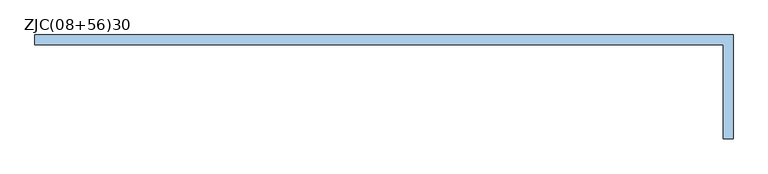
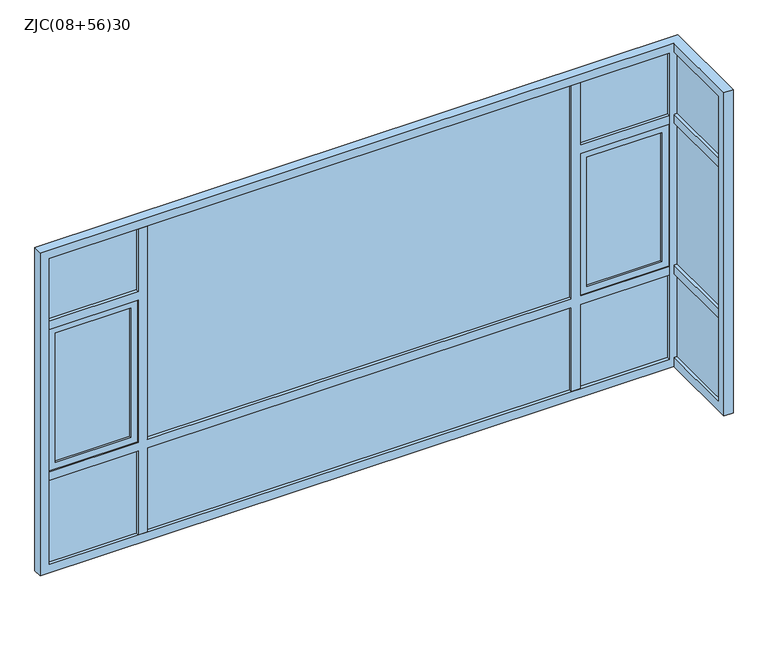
"""IFC4 building model written with IfcOpenShell, lengths in millimetres: window geometry, 转角窗 安荣伟 : ZJC(08+56)30."""

from ifc_helpers import new_model, si_unit, frame, origin, place, context, project, spatial, polyline, outline, extrude, faceted_brep, source, transform, mapped, element, save


def zjc_08_56_30_6e2e087f(model_context):
    return source(origin(), model_context, "Body", "SolidModel", [
        extrude(outline(polyline([(2260.0, -4740.0), (2260.0, -5520.0), (940.0, -5520.0), (940.0, -4740.0), (2260.0, -4740.0)]), holes=[polyline([(2200.0, -4800.0), (1000.0, -4800.0), (1000.0, -5460.0), (2200.0, -5460.0), (2200.0, -4800.0)])]), frame((0.0, -30.0, 0.0), z_axis=(0.0, 1.0, 0.0), x_axis=(0.0, 0.0, 1.0)), (0.0, 0.0, 1.0), 60.0),
        extrude(outline(polyline([(2260.0, -80.0), (2260.0, -860.0), (940.0, -860.0), (940.0, -80.0), (2260.0, -80.0)]), holes=[polyline([(2200.0, -140.0), (1000.0, -140.0), (1000.0, -800.0), (2200.0, -800.0), (2200.0, -140.0)])]), frame((0.0, -30.0, 0.0), z_axis=(0.0, 1.0, 0.0), x_axis=(0.0, 0.0, 1.0)), (0.0, 0.0, 1.0), 60.0),
        faceted_brep([(-5600.0, 40.0, 3000.0), (40.0, 40.0, 3000.0), (40.0, 40.0, 0.0), (-5600.0, 40.0, 0.0), (-80.0, 40.0, 2920.0), (-5520.0, 40.0, 2920.0), (-5520.0, 40.0, 80.0), (-80.0, 40.0, 80.0), (-5600.0, -40.0, 0.0), (-40.0, -40.0, 0.0), (-40.0, -40.0, 80.0), (40.0, -40.0, 80.0), (40.0, -40.0, 2920.0), (-40.0, -40.0, 2920.0), (-40.0, -40.0, 3000.0), (-5600.0, -40.0, 3000.0), (-80.0, -40.0, 2920.0), (-80.0, -40.0, 80.0), (-5520.0, -40.0, 80.0), (-5520.0, -40.0, 2920.0), (-40.0, -800.0, 3000.0), (40.0, -800.0, 3000.0), (40.0, -800.0, 0.0), (-40.0, -800.0, 0.0), (40.0, -720.0, 2920.0), (40.0, -720.0, 80.0), (-40.0, -720.0, 2920.0), (-40.0, -720.0, 80.0)], [[[0, 1, 2, 3], [4, 5, 6, 7]], [[8, 9, 10, 11, 12, 13, 14, 15], [16, 17, 18, 19]], [[15, 14, 20, 21, 1, 0]], [[3, 8, 15, 0]], [[2, 22, 23, 9, 8, 3]], [[7, 17, 16, 4]], [[6, 18, 17, 7]], [[5, 19, 18, 6]], [[4, 16, 19, 5]], [[21, 22, 2, 1], [24, 12, 11, 25]], [[20, 14, 13, 26, 27, 10, 9, 23]], [[21, 20, 23, 22]], [[25, 27, 26, 24]], [[10, 27, 25, 11]], [[24, 26, 13, 12]]]),
        extrude(outline(polyline([(80.0, -4660.0), (860.0, -4660.0), (860.0, -940.0), (80.0, -940.0), (80.0, -860.0), (860.0, -860.0), (860.0, -80.0), (940.0, -80.0), (940.0, -860.0), (2260.0, -860.0), (2260.0, -80.0), (2340.0, -80.0), (2340.0, -860.0), (2920.0, -860.0), (2920.0, -940.0), (940.0, -940.0), (940.0, -4660.0), (2920.0, -4660.0), (2920.0, -4740.0), (2340.0, -4740.0), (2340.0, -5520.0), (2260.0, -5520.0), (2260.0, -4740.0), (940.0, -4740.0), (940.0, -5520.0), (860.0, -5520.0), (860.0, -4740.0), (80.0, -4740.0), (80.0, -4660.0)])), frame((0.0, -40.0, 0.0), z_axis=(0.0, 1.0, 0.0), x_axis=(0.0, 0.0, 1.0)), (0.0, 0.0, 1.0), 80.0),
        extrude(outline(polyline([(-6.0, -720.0), (-12.0, -720.0), (-12.0, -40.0), (-6.0, -40.0), (-6.0, -720.0)])), frame((0.0, 0.0, 2340.0), z_axis=(0.0, 0.0, 1.0), x_axis=(1.0, 0.0, 0.0)), (0.0, 0.0, 1.0), 580.0),
        extrude(outline(polyline([(-6.0, -720.0), (-12.0, -720.0), (-12.0, -40.0), (-6.0, -40.0), (-6.0, -720.0)])), frame((0.0, 0.0, 940.0), z_axis=(0.0, 0.0, 1.0), x_axis=(1.0, 0.0, 0.0)), (0.0, 0.0, 1.0), 1320.0),
        extrude(outline(polyline([(-6.0, -720.0), (-12.0, -720.0), (-12.0, -40.0), (-6.0, -40.0), (-6.0, -720.0)])), frame((0.0, 0.0, 80.0), z_axis=(0.0, 0.0, 1.0), x_axis=(1.0, 0.0, 0.0)), (0.0, 0.0, 1.0), 780.0),
        extrude(outline(polyline([(12.0, -720.0), (6.0, -720.0), (6.0, -40.0), (12.0, -40.0), (12.0, -720.0)])), frame((0.0, 0.0, 2340.0), z_axis=(0.0, 0.0, 1.0), x_axis=(1.0, 0.0, 0.0)), (0.0, 0.0, 1.0), 580.0),
        extrude(outline(polyline([(12.0, -720.0), (6.0, -720.0), (6.0, -40.0), (12.0, -40.0), (12.0, -720.0)])), frame((0.0, 0.0, 940.0), z_axis=(0.0, 0.0, 1.0), x_axis=(1.0, 0.0, 0.0)), (0.0, 0.0, 1.0), 1320.0),
        extrude(outline(polyline([(12.0, -720.0), (6.0, -720.0), (6.0, -40.0), (12.0, -40.0), (12.0, -720.0)])), frame((0.0, 0.0, 80.0), z_axis=(0.0, 0.0, 1.0), x_axis=(1.0, 0.0, 0.0)), (0.0, 0.0, 1.0), 780.0),
        extrude(outline(polyline([(-4740.0, -6.0), (-4740.0, -12.0), (-5520.0, -12.0), (-5520.0, -6.0), (-4740.0, -6.0)])), frame((0.0, 0.0, 2340.0), z_axis=(0.0, 0.0, 1.0), x_axis=(1.0, 0.0, 0.0)), (0.0, 0.0, 1.0), 580.0),
        extrude(outline(polyline([(-4800.0, -6.0), (-4800.0, -12.0), (-5460.0, -12.0), (-5460.0, -6.0), (-4800.0, -6.0)])), frame((0.0, 0.0, 1000.0), z_axis=(0.0, 0.0, 1.0), x_axis=(1.0, 0.0, 0.0)), (0.0, 0.0, 1.0), 1200.0),
        extrude(outline(polyline([(-940.0, -6.0), (-940.0, -12.0), (-4660.0, -12.0), (-4660.0, -6.0), (-940.0, -6.0)])), frame((0.0, 0.0, 940.0), z_axis=(0.0, 0.0, 1.0), x_axis=(1.0, 0.0, 0.0)), (0.0, 0.0, 1.0), 1980.0),
        extrude(outline(polyline([(-80.0, -6.0), (-80.0, -12.0), (-860.0, -12.0), (-860.0, -6.0), (-80.0, -6.0)])), frame((0.0, 0.0, 2340.0), z_axis=(0.0, 0.0, 1.0), x_axis=(1.0, 0.0, 0.0)), (0.0, 0.0, 1.0), 580.0),
        extrude(outline(polyline([(-140.0, -6.0), (-140.0, -12.0), (-800.0, -12.0), (-800.0, -6.0), (-140.0, -6.0)])), frame((0.0, 0.0, 1000.0), z_axis=(0.0, 0.0, 1.0), x_axis=(1.0, 0.0, 0.0)), (0.0, 0.0, 1.0), 1200.0),
        extrude(outline(polyline([(-4740.0, -6.0), (-4740.0, -12.0), (-5520.0, -12.0), (-5520.0, -6.0), (-4740.0, -6.0)])), frame((0.0, 0.0, 80.0), z_axis=(0.0, 0.0, 1.0), x_axis=(1.0, 0.0, 0.0)), (0.0, 0.0, 1.0), 780.0),
        extrude(outline(polyline([(-940.0, -6.0), (-940.0, -12.0), (-4660.0, -12.0), (-4660.0, -6.0), (-940.0, -6.0)])), frame((0.0, 0.0, 80.0), z_axis=(0.0, 0.0, 1.0), x_axis=(1.0, 0.0, 0.0)), (0.0, 0.0, 1.0), 780.0),
        extrude(outline(polyline([(-80.0, -6.0), (-80.0, -12.0), (-860.0, -12.0), (-860.0, -6.0), (-80.0, -6.0)])), frame((0.0, 0.0, 80.0), z_axis=(0.0, 0.0, 1.0), x_axis=(1.0, 0.0, 0.0)), (0.0, 0.0, 1.0), 780.0),
        extrude(outline(polyline([(-4740.0, 12.0), (-4740.0, 6.0), (-5520.0, 6.0), (-5520.0, 12.0), (-4740.0, 12.0)])), frame((0.0, 0.0, 2340.0), z_axis=(0.0, 0.0, 1.0), x_axis=(1.0, 0.0, 0.0)), (0.0, 0.0, 1.0), 580.0),
        extrude(outline(polyline([(-4800.0, 12.0), (-4800.0, 6.0), (-5460.0, 6.0), (-5460.0, 12.0), (-4800.0, 12.0)])), frame((0.0, 0.0, 1000.0), z_axis=(0.0, 0.0, 1.0), x_axis=(1.0, 0.0, 0.0)), (0.0, 0.0, 1.0), 1200.0),
        extrude(outline(polyline([(-940.0, 12.0), (-940.0, 6.0), (-4660.0, 6.0), (-4660.0, 12.0), (-940.0, 12.0)])), frame((0.0, 0.0, 940.0), z_axis=(0.0, 0.0, 1.0), x_axis=(1.0, 0.0, 0.0)), (0.0, 0.0, 1.0), 1980.0),
        extrude(outline(polyline([(-80.0, 12.0), (-80.0, 6.0), (-860.0, 6.0), (-860.0, 12.0), (-80.0, 12.0)])), frame((0.0, 0.0, 2340.0), z_axis=(0.0, 0.0, 1.0), x_axis=(1.0, 0.0, 0.0)), (0.0, 0.0, 1.0), 580.0),
        extrude(outline(polyline([(-140.0, 12.0), (-140.0, 6.0), (-800.0, 6.0), (-800.0, 12.0), (-140.0, 12.0)])), frame((0.0, 0.0, 1000.0), z_axis=(0.0, 0.0, 1.0), x_axis=(1.0, 0.0, 0.0)), (0.0, 0.0, 1.0), 1200.0),
        extrude(outline(polyline([(-4740.0, 12.0), (-4740.0, 6.0), (-5520.0, 6.0), (-5520.0, 12.0), (-4740.0, 12.0)])), frame((0.0, 0.0, 80.0), z_axis=(0.0, 0.0, 1.0), x_axis=(1.0, 0.0, 0.0)), (0.0, 0.0, 1.0), 780.0),
        extrude(outline(polyline([(-940.0, 12.0), (-940.0, 6.0), (-4660.0, 6.0), (-4660.0, 12.0), (-940.0, 12.0)])), frame((0.0, 0.0, 80.0), z_axis=(0.0, 0.0, 1.0), x_axis=(1.0, 0.0, 0.0)), (0.0, 0.0, 1.0), 780.0),
        extrude(outline(polyline([(-80.0, 12.0), (-80.0, 6.0), (-860.0, 6.0), (-860.0, 12.0), (-80.0, 12.0)])), frame((0.0, 0.0, 80.0), z_axis=(0.0, 0.0, 1.0), x_axis=(1.0, 0.0, 0.0)), (0.0, 0.0, 1.0), 780.0),
        extrude(outline(polyline([(40.0, -720.0), (-40.0, -720.0), (-40.0, -40.0), (40.0, -40.0), (40.0, -720.0)])), frame((0.0, 0.0, 2260.0), z_axis=(0.0, 0.0, 1.0), x_axis=(1.0, 0.0, 0.0)), (0.0, 0.0, 1.0), 80.0),
        extrude(outline(polyline([(40.0, -720.0), (-40.0, -720.0), (-40.0, -40.0), (40.0, -40.0), (40.0, -720.0)])), frame((0.0, 0.0, 860.0), z_axis=(0.0, 0.0, 1.0), x_axis=(1.0, 0.0, 0.0)), (0.0, 0.0, 1.0), 80.0),
    ])


if __name__ == "__main__":
    model = new_model("IFC4")
    model_context = context("Model", 3, world=origin())
    ifc_project = project(units=[si_unit("LENGTHUNIT", "METRE", prefix="MILLI")], contexts=[model_context])
    site = spatial("IfcSite", under=ifc_project)
    building = spatial("IfcBuilding", under=site)
    placement = place(None, origin())
    zjc_08_56_30_shape = zjc_08_56_30_6e2e087f(model_context)
    element("IfcWindow", 1, ObjectType="转角窗 安荣伟 : ZJC(08+56)30", at=placement, inside=building, context=model_context, shape_type="MappedRepresentation", body=[
        mapped(zjc_08_56_30_shape, transform((0.0, 0.0, 0.0), x_axis=(1.0, 0.0, 0.0), y_axis=(0.0, 1.0, 0.0), z_axis=(0.0, 0.0, 1.0))),
    ])
    save(model, "model.ifc")
